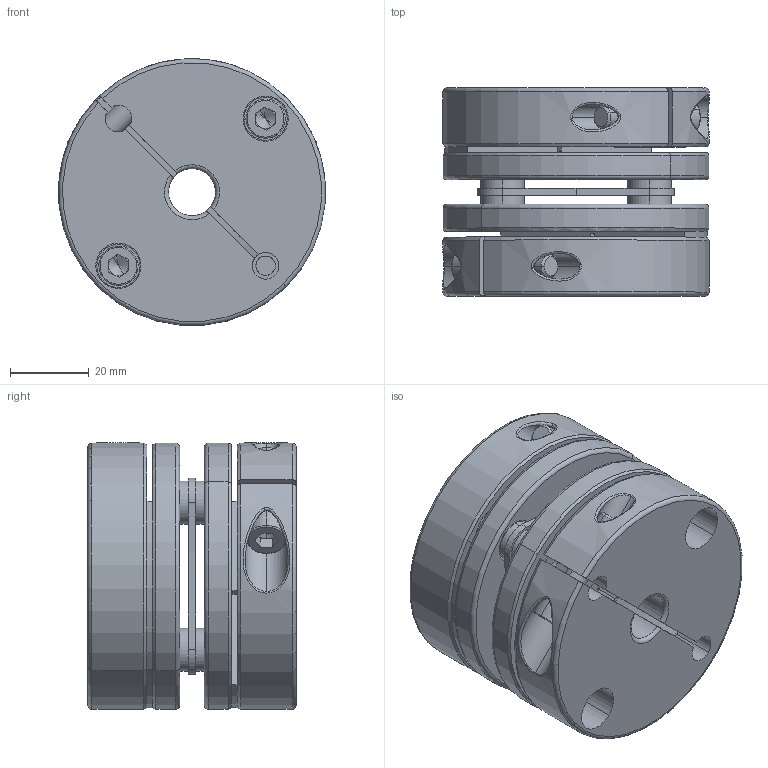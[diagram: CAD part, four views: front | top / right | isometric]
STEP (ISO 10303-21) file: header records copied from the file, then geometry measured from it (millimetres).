
FILE_DESCRIPTION (( 'STEP AP203' ), '1' );
FILE_NAME ('DXB-68X53-12-12.STEP', '2023-10-18T08:21:06', ( '' ), ( '' ), 'SwSTEP 2.0', 'SolidWorks 2020', '' );
FILE_SCHEMA (( 'CONFIG_CONTROL_DESIGN' ));
Length unit declared in the file: millimetre
Products named in the file (5): 68臚え郪; DXB-68X53-12-12; 68臚え薊粣ん傷裔22K6; socket head cap screw_iso_ISO 4762 M6 x 12 - 12C; socket head cap screw_iso_ISO 4762 M6 x 25 - 25C
Assembly tree (9 placements, depth 2):
  DXB-68X53-12-12
    68臚え郪
    68臚え薊粣ん傷裔22K6  x2
    socket head cap screw_iso_ISO 4762 M6 x 12 - 12C  x4
    socket head cap screw_iso_ISO 4762 M6 x 25 - 25C  x2
Bounding box: 68 x 53 x 67.89 mm (x, y, z)
Volume: 149123 mm3; surface area: 48051.3 mm2
Topology: 9 solids, 9 shells, 355 faces, 835 edges, 512 vertices
Faces by surface type: plane 138, cylinder 137, torus 40, cone 32, bspline 8
Entity records: 6906 total; most frequent: CARTESIAN_POINT 1997, DIRECTION 964, ORIENTED_EDGE 834, EDGE_CURVE 417, AXIS2_PLACEMENT_3D 392, VERTEX_POINT 264, EDGE_LOOP 219, CIRCLE 208
